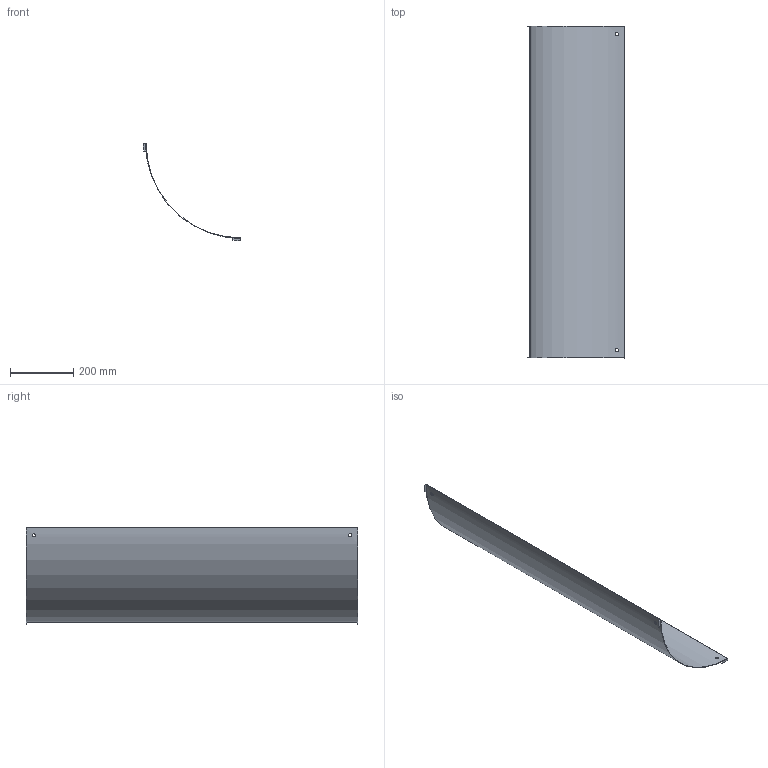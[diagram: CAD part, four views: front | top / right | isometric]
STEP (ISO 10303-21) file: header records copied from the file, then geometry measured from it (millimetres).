
FILE_DESCRIPTION(/* description */ ('','CAx-IF Rec.Pracs.---Representation and Presentation of Product Manufacturing Information (PMI)---4.0---2014-10-13'),/* implementation_level */ '2;1');
FILE_NAME(/* name */ 'Eurostrut_EIRC1000-90-300_Cover Inside Riser 90 for Cable Ladder ECL.step',/* time_stamp */ '2026-09-10T11:56:26+02:00',/* author */ (''),/* organization */ (''),/* preprocessor_version */ 'ST-DEVELOPER v20.1',/* originating_system */ 'Autodesk Revit 2027 27.2.0.39',/* authorisation */ '');
FILE_SCHEMA (('AP242_MANAGED_MODEL_BASED_3D_ENGINEERING_MIM_LF { 1 0 10303 442 2 1 4 }'));
Length unit declared in the file: millimetre
Products named in the file (3): TopLevelAssembly; Sweep; Joined Solid Geometry
Assembly tree (2 placements, depth 2):
  TopLevelAssembly
    Sweep
    Joined Solid Geometry
Bounding box: 309 x 1053 x 309 mm (x, y, z)
Volume: 746837.7 mm3; surface area: 1000939 mm2
Topology: 5 solids, 5 shells, 38 faces, 84 edges, 56 vertices
Faces by surface type: plane 20, cylinder 18
Entity records: 1358 total; most frequent: CARTESIAN_POINT 461, DIRECTION 174, ORIENTED_EDGE 168, EDGE_CURVE 84, AXIS2_PLACEMENT_3D 63, VERTEX_POINT 56, LINE 48, VECTOR 48
